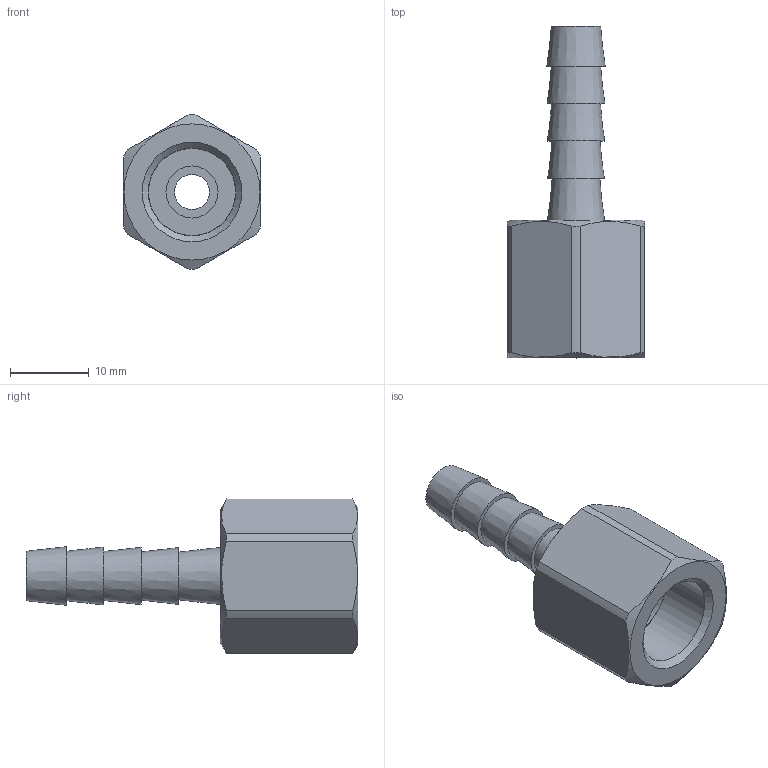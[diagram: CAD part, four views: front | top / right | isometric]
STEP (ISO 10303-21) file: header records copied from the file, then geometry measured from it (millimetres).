
FILE_DESCRIPTION(/* description */ (''),/* implementation_level */ '2;1');
FILE_NAME(/* name */ 'C:/Users/drich/Desktop/FB14-4 v1.step',/* time_stamp */ '2020-02-09T10:47:59-06:00',/* author */ (''),/* organization */ (''),/* preprocessor_version */ 'ST-DEVELOPER v18',/* originating_system */ 'Autodesk Translation Framework v8.12.0.6',/* authorisation */ '');
FILE_SCHEMA (('AUTOMOTIVE_DESIGN { 1 0 10303 214 3 1 1 }'));
Length unit declared in the file: inch
Products named in the file (2): FB14-4; 14 BARB ONLY
Assembly tree (1 placements, depth 2):
  FB14-4
    14 BARB ONLY
Bounding box: 17.45 x 42.09 x 19.56 mm (x, y, z)
Volume: 3572.2 mm3; surface area: 2967.3 mm2
Topology: 2 solids, 2 shells, 35 faces, 92 edges, 66 vertices
Faces by surface type: plane 15, cone 10, cylinder 10
Full cylindrical faces by diameter (mm): 4.445 x1, 6.604 x1, 11.049 x1, 11.1 x1
Entity records: 1191 total; most frequent: CARTESIAN_POINT 220, DIRECTION 210, ORIENTED_EDGE 184, EDGE_CURVE 92, AXIS2_PLACEMENT_3D 92, VERTEX_POINT 66, CIRCLE 54, EDGE_LOOP 44
